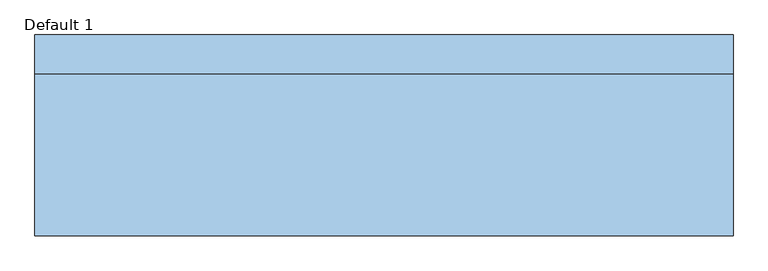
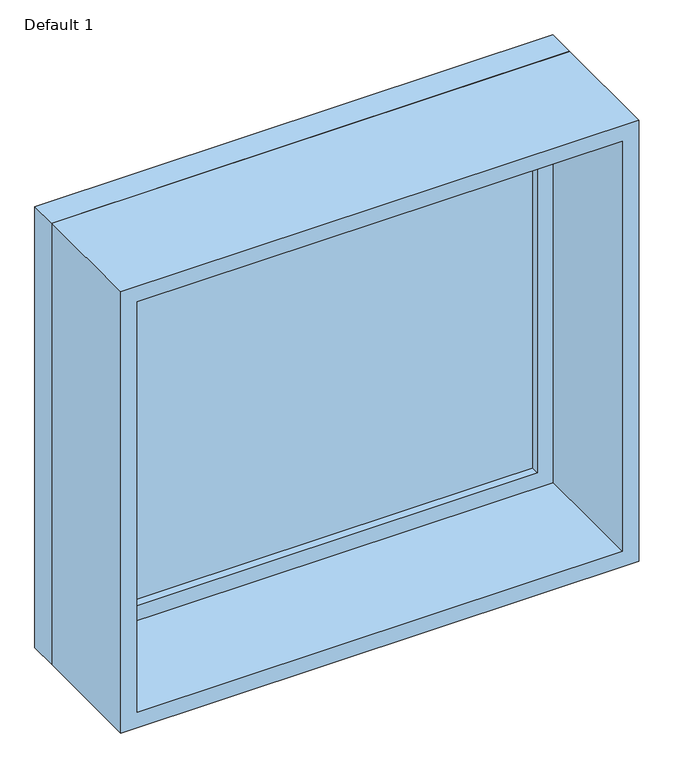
"""IFC4 building model written with IfcOpenShell, lengths in millimetres: window geometry, Planitar-Fixed : Default 1."""

from ifc_helpers import new_model, si_unit, frame, origin, place, context, project, spatial, polyline, outline, extrude, source, transform, mapped, element, save


def default_1_75eb9743(model_context):
    return source(origin(), model_context, "Body", "SweptSolid", [
        extrude(outline(polyline([(1809.8, -489.0), (933.4, -489.0), (933.4, 489.0), (1809.8, 489.0), (1809.8, -489.0)]), holes=[polyline([(1765.8, -445.0), (1765.8, 445.0), (977.4, 445.0), (977.4, -445.0), (1765.8, -445.0)])]), frame((0.0, 102.35, 0.0), z_axis=(0.0, 1.0, 0.0), x_axis=(0.0, 0.0, 1.0)), (0.0, 0.0, 1.0), 44.0),
        extrude(outline(polyline([(1828.8, -508.0), (914.4, -508.0), (914.4, 508.0), (1828.8, 508.0), (1828.8, -508.0)]), holes=[polyline([(1809.8, -489.0), (1809.8, 489.0), (933.4, 489.0), (933.4, -489.0), (1809.8, -489.0)])]), frame((0.0, 102.35, 0.0), z_axis=(0.0, 1.0, 0.0), x_axis=(0.0, 0.0, 1.0)), (0.0, 0.0, 1.0), 56.7),
        extrude(outline(polyline([(1828.8, -508.0), (914.4, -508.0), (914.4, 508.0), (1828.8, 508.0), (1828.8, -508.0)]), holes=[polyline([(1796.8, -476.0), (1796.8, 476.0), (946.4, 476.0), (946.4, -476.0), (1796.8, -476.0)])]), frame((0.0, -133.05, 0.0), z_axis=(0.0, 1.0, 0.0), x_axis=(0.0, 0.0, 1.0)), (0.0, 0.0, 1.0), 235.4),
        extrude(outline(polyline([(-445.0, 130.35), (445.0, 130.35), (445.0, 118.35), (-445.0, 118.35), (-445.0, 130.35)])), frame((0.0, 0.0, 977.4), z_axis=(0.0, 0.0, 1.0), x_axis=(1.0, 0.0, 0.0)), (0.0, 0.0, 1.0), 788.4),
    ])


if __name__ == "__main__":
    model = new_model("IFC4")
    model_context = context("Model", 3, world=origin())
    ifc_project = project(units=[si_unit("LENGTHUNIT", "METRE", prefix="MILLI")], contexts=[model_context])
    site = spatial("IfcSite", under=ifc_project)
    building = spatial("IfcBuilding", under=site)
    placement = place(None, origin())
    default_1_shape = default_1_75eb9743(model_context)
    element("IfcWindow", 1, ObjectType="Planitar-Fixed : Default 1", at=placement, inside=building, context=model_context, shape_type="MappedRepresentation", body=[
        mapped(default_1_shape, transform((0.0, 0.0, 0.0), x_axis=(1.0, 0.0, 0.0), y_axis=(0.0, 1.0, 0.0), z_axis=(0.0, 0.0, 1.0))),
    ])
    save(model, "model.ifc")
